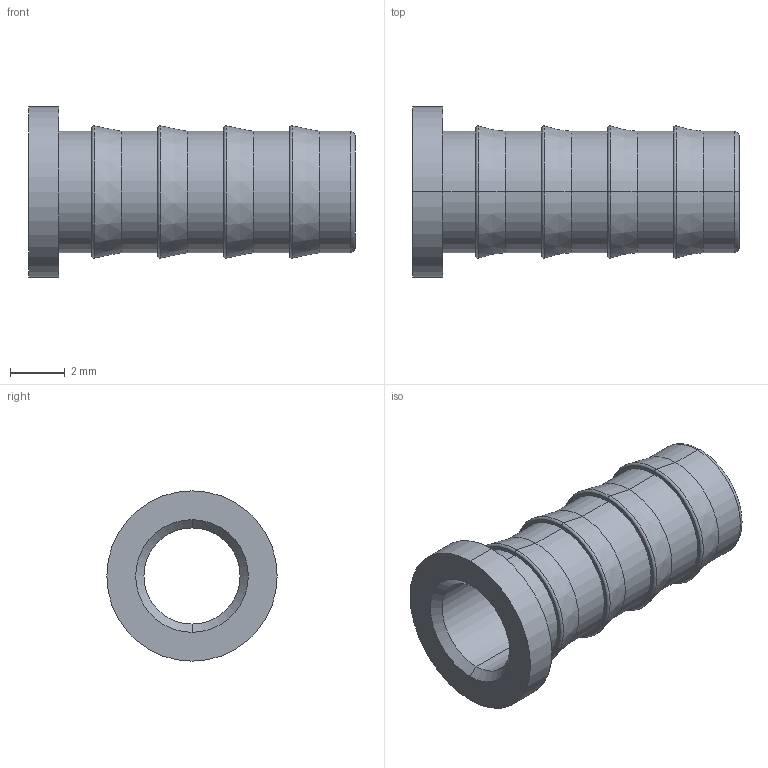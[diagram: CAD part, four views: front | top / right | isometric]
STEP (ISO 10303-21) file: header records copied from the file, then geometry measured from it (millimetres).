
FILE_DESCRIPTION (( 'STEP AP203' ), '1' );
FILE_NAME ('DTI04-03 SS.STEP', '2009-09-08T09:58:10', ( ' ' ), ( '' ), 'SwSTEP 2.0', 'SolidWorks 2008', '' );
FILE_SCHEMA (( 'CONFIG_CONTROL_DESIGN' ));
Length unit declared in the file: millimetre
Products named in the file (1): DTI04-03 SS
Bounding box: 11.9 x 6.2 x 6.2 mm (x, y, z)
Volume: 89.3 mm3; surface area: 352.3 mm2
Topology: 1 solids, 1 shells, 43 faces, 86 edges, 50 vertices
Faces by surface type: cylinder 14, cone 12, torus 10, plane 7
Entity records: 1205 total; most frequent: DIRECTION 234, CARTESIAN_POINT 180, ORIENTED_EDGE 172, AXIS2_PLACEMENT_3D 104, EDGE_CURVE 86, CIRCLE 60, EDGE_LOOP 50, VERTEX_POINT 50
